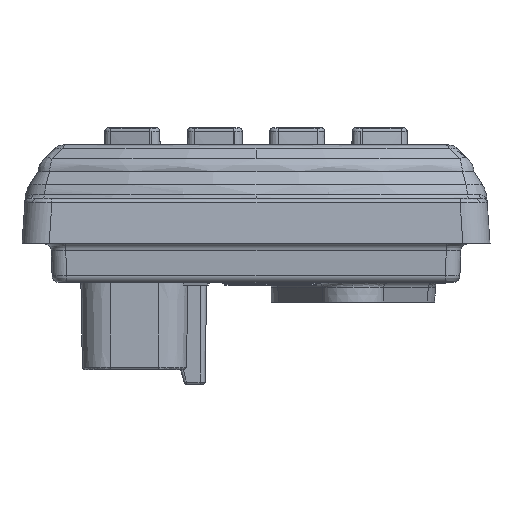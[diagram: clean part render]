
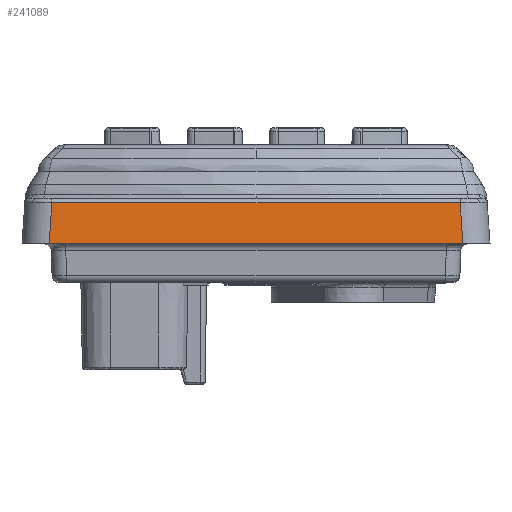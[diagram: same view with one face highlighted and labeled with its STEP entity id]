
A CAD part, left-side view. The second image highlights one B-rep face of the part: STEP entity #241089.
In plain terms, the highlighted planar face has unit normal (-0.998, 0, 0.07).
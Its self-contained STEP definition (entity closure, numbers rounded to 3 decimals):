
#28354 = CARTESIAN_POINT ( 'NONE',  ( -93.42, -42.665, 0.15 ) ) ;
#30627 = VERTEX_POINT ( 'NONE', #122996 ) ;
#52119 = CARTESIAN_POINT ( 'NONE',  ( -92.842, 0., 8.42 ) ) ;
#66721 = VECTOR ( 'NONE', #376987, 1000. ) ;
#67094 = VECTOR ( 'NONE', #81198, 1000. ) ;
#77250 = CARTESIAN_POINT ( 'NONE',  ( -93.136, 42.382, 4.205 ) ) ;
#81198 = DIRECTION ( 'NONE',  ( 0., 1., 0. ) ) ;
#95406 = CARTESIAN_POINT ( 'NONE',  ( -93.42, -42.665, 0.15 ) ) ;
#96731 = VERTEX_POINT ( 'NONE', #144644 ) ;
#118867 = LINE ( 'NONE', #28354, #349389 ) ;
#122996 = CARTESIAN_POINT ( 'NONE',  ( -92.842, -42.087, 8.42 ) ) ;
#124548 = DIRECTION ( 'NONE',  ( -0.998, 0., 0.07 ) ) ;
#130659 = FACE_OUTER_BOUND ( 'NONE', #300750, .T. ) ;
#144644 = CARTESIAN_POINT ( 'NONE',  ( -93.42, 42.665, 0.15 ) ) ;
#146039 = VECTOR ( 'NONE', #232090, 1000. ) ;
#155458 = EDGE_CURVE ( 'NONE', #30627, #319094, #296603, .T. ) ;
#176419 = EDGE_CURVE ( 'NONE', #222760, #96731, #217573, .T. ) ;
#182840 = ORIENTED_EDGE ( 'NONE', *, *, #368854, .T. ) ;
#183920 = AXIS2_PLACEMENT_3D ( 'NONE', #304754, #124548, #334960 ) ;
#204660 = ORIENTED_EDGE ( 'NONE', *, *, #355904, .T. ) ;
#208433 = DIRECTION ( 'NONE',  ( 0.07, 0.07, 0.995 ) ) ;
#217573 = LINE ( 'NONE', #352006, #67094 ) ;
#222760 = VERTEX_POINT ( 'NONE', #95406 ) ;
#232090 = DIRECTION ( 'NONE',  ( 0., 1., 0. ) ) ;
#240801 = ORIENTED_EDGE ( 'NONE', *, *, #155458, .T. ) ;
#241089 = ADVANCED_FACE ( 'NONE', ( #130659 ), #241542, .T. ) ;
#241542 = PLANE ( 'NONE',  #183920 ) ;
#296603 = LINE ( 'NONE', #52119, #146039 ) ;
#300750 = EDGE_LOOP ( 'NONE', ( #182840, #317688, #204660, #240801 ) ) ;
#304754 = CARTESIAN_POINT ( 'NONE',  ( -93.42, -43.177, 0.15 ) ) ;
#316032 = LINE ( 'NONE', #77250, #66721 ) ;
#317688 = ORIENTED_EDGE ( 'NONE', *, *, #176419, .F. ) ;
#319094 = VERTEX_POINT ( 'NONE', #324859 ) ;
#324859 = CARTESIAN_POINT ( 'NONE',  ( -92.842, 42.087, 8.42 ) ) ;
#334960 = DIRECTION ( 'NONE',  ( 0.07, 0., 0.998 ) ) ;
#349389 = VECTOR ( 'NONE', #208433, 1000. ) ;
#352006 = CARTESIAN_POINT ( 'NONE',  ( -93.42, 0., 0.15 ) ) ;
#355904 = EDGE_CURVE ( 'NONE', #222760, #30627, #118867, .T. ) ;
#368854 = EDGE_CURVE ( 'NONE', #319094, #96731, #316032, .T. ) ;
#376987 = DIRECTION ( 'NONE',  ( -0.07, 0.07, -0.995 ) ) ;
